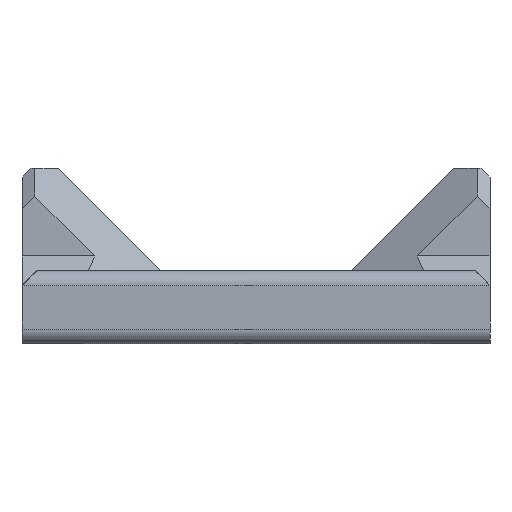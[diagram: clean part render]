
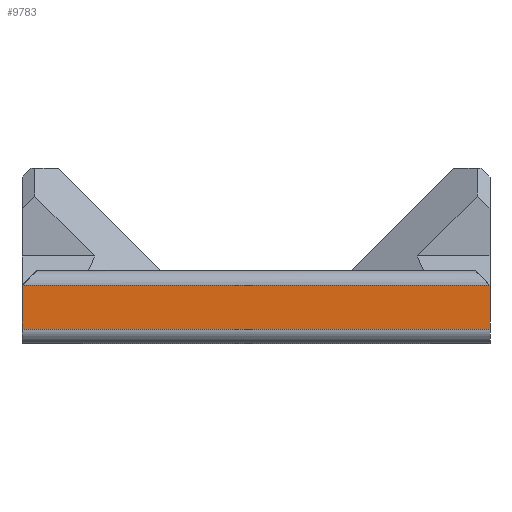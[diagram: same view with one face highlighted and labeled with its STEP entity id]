
A CAD part, front view. The second image highlights one B-rep face of the part: STEP entity #9783.
In plain terms, the highlighted planar face has unit normal (0, -1, 0).
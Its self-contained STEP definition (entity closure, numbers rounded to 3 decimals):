
#1005=FACE_OUTER_BOUND('',#1553,.T.);
#1553=EDGE_LOOP('',(#8525,#8526,#8527,#8528));
#2574=LINE('',#16013,#3696);
#2697=LINE('',#16385,#3819);
#2698=LINE('',#16387,#3820);
#2699=LINE('',#16388,#3821);
#3696=VECTOR('',#12818,10.);
#3819=VECTOR('',#13119,10.);
#3820=VECTOR('',#13120,10.);
#3821=VECTOR('',#13121,10.);
#4608=VERTEX_POINT('',#16010);
#4609=VERTEX_POINT('',#16012);
#4705=VERTEX_POINT('',#16384);
#4706=VERTEX_POINT('',#16386);
#5925=EDGE_CURVE('',#4608,#4609,#2574,.T.);
#6082=EDGE_CURVE('',#4609,#4705,#2697,.T.);
#6083=EDGE_CURVE('',#4706,#4608,#2698,.T.);
#6084=EDGE_CURVE('',#4706,#4705,#2699,.T.);
#8525=ORIENTED_EDGE('',*,*,#6082,.F.);
#8526=ORIENTED_EDGE('',*,*,#5925,.F.);
#8527=ORIENTED_EDGE('',*,*,#6083,.F.);
#8528=ORIENTED_EDGE('',*,*,#6084,.T.);
#9245=PLANE('',#10538);
#9783=ADVANCED_FACE('',(#1005),#9245,.T.);
#10538=AXIS2_PLACEMENT_3D('',#16383,#13117,#13118);
#12818=DIRECTION('',(0.,0.,-1.));
#13117=DIRECTION('center_axis',(0.,-1.,0.));
#13118=DIRECTION('ref_axis',(0.,0.,1.));
#13119=DIRECTION('',(-1.,0.,0.));
#13120=DIRECTION('',(1.,0.,0.));
#13121=DIRECTION('',(0.,0.,-1.));
#16010=CARTESIAN_POINT('',(16.,-22.5,14.));
#16012=CARTESIAN_POINT('',(16.,-22.5,11.));
#16013=CARTESIAN_POINT('',(16.,-22.5,11.25));
#16383=CARTESIAN_POINT('Origin',(16.,-22.5,10.));
#16384=CARTESIAN_POINT('',(-16.,-22.5,11.));
#16385=CARTESIAN_POINT('',(16.,-22.5,11.));
#16386=CARTESIAN_POINT('',(-16.,-22.5,14.));
#16387=CARTESIAN_POINT('',(16.,-22.5,14.));
#16388=CARTESIAN_POINT('',(-16.,-22.5,11.25));
